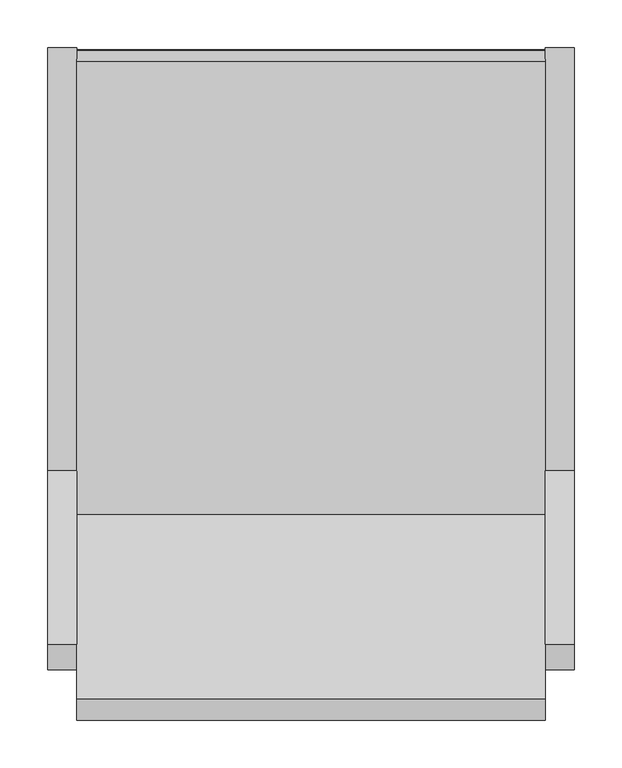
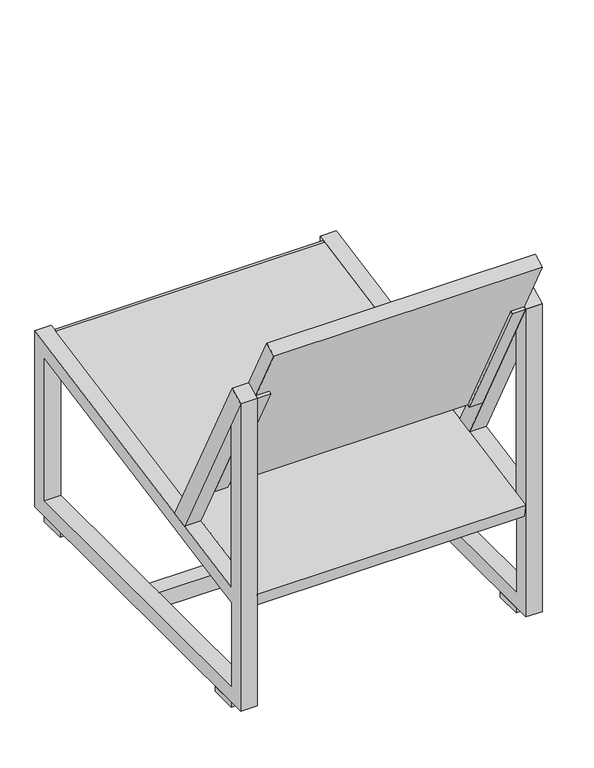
"""IFC4 building model written with IfcOpenShell, lengths in millimetres: furniture geometry, 1.4 Sillón : 1.4 Sillón."""

from ifc_helpers import new_model, si_unit, point, frame, frame_2d, origin, origin_with_axes, place, context, project, spatial, polyline, circle_curve, trimmed, segment, composite_curve, outline, extrude, source, transform, mapped, element, save


def furniture_649de98c(model_context):
    return source(origin(), model_context, "Body", "SweptSolid", [
        extrude(outline(polyline([(-147.6730251, 259.7099185), (-325.0, 603.6317602), (-298.335661, 617.3799611), (-116.9463627, 265.5793307), (-147.6730251, 259.7099185)])), frame((245.0, 0.0, 0.0), z_axis=(1.0, 0.0, 0.0), x_axis=(0.0, 1.0, 0.0)), (0.0, 0.0, 1.0), 30.0),
        extrude(outline(composite_curve([segment(trimmed(circle_curve(frame_2d((312.3631824, 337.405304)), 10.0), [point((310.4869055, 347.2277062))], [point((322.1855846, 339.281581))], False, "CARTESIAN"), True, "CONTINUOUS"), segment(polyline([(322.1855846, 339.281581), (323.1237231, 334.3703799)]), True, "CONTINUOUS"), segment(trimmed(circle_curve(frame_2d((313.3013209, 332.4941029)), 10.0), [point((323.1237231, 334.3703799))], [point((315.1775978, 322.6717007))], False, "CARTESIAN"), True, "CONTINUOUS"), segment(polyline([(315.1775978, 322.6717007), (-320.3093077, 201.2808841), (-325.0, 225.8368896), (310.4869055, 347.2277062)]), True, "CONTINUOUS")], self_intersect=False)), frame((-245.0, 0.0, 0.0), z_axis=(1.0, 0.0, 0.0), x_axis=(0.0, 1.0, 0.0)), (0.0, 0.0, 1.0), 490.0),
        extrude(outline(polyline([(-295.0, 545.4474075), (-295.0, 231.5674947), (325.0, 350.0), (325.0, 10.0), (-325.0, 10.0), (-325.0, 603.6317602), (-295.0, 545.4474075)]), holes=[polyline([(-295.0, 201.0250679), (-295.0, 40.0), (295.0, 40.0), (295.0, 313.7269681), (-295.0, 201.0250679)])]), frame((245.0, 0.0, 0.0), z_axis=(1.0, 0.0, 0.0), x_axis=(0.0, 1.0, 0.0)), (0.0, 0.0, 1.0), 30.0),
        extrude(outline(polyline([(-147.6730251, 259.7099185), (-325.0, 603.6317602), (-298.335661, 617.3799611), (-116.9463627, 265.5793307), (-147.6730251, 259.7099185)])), frame((-275.0, 0.0, 0.0), z_axis=(1.0, 0.0, 0.0), x_axis=(0.0, 1.0, 0.0)), (0.0, 0.0, 1.0), 30.0),
        extrude(outline(polyline([(-295.0, 545.4474075), (-295.0, 231.5674947), (325.0, 350.0), (325.0, 10.0), (-325.0, 10.0), (-325.0, 603.6317602), (-295.0, 545.4474075)]), holes=[polyline([(-295.0, 40.0), (295.0, 40.0), (295.0, 313.7269681), (-295.0, 201.0250679), (-295.0, 40.0)])]), frame((-275.0, 0.0, 0.0), z_axis=(1.0, 0.0, 0.0), x_axis=(0.0, 1.0, 0.0)), (0.0, 0.0, 1.0), 30.0),
        extrude(outline(polyline([(245.0, 15.0), (245.0, -15.0), (-245.0, -15.0), (-245.0, 15.0), (245.0, 15.0)])), frame((0.0, 0.0, 10.0), z_axis=(0.0, 0.0, 1.0), x_axis=(1.0, 0.0, 0.0)), (0.0, 0.0, 1.0), 30.0),
        extrude(outline(polyline([(-490.0, 0.0), (0.0, 0.0), (0.0, -25.0), (-490.0, -25.0), (-490.0, 0.0)])), frame((245.0, -162.8391573, 354.5874156), z_axis=(0.0, -0.45827336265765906, 0.8888112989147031), x_axis=(1.0, 0.0, 0.0)), (0.0, 0.0, 1.0), 419.8754168),
        extrude(outline(polyline([(-490.0, 0.0), (0.0, 0.0), (0.0, -25.0), (-490.0, -25.0), (-490.0, 0.0)])), frame((245.0, 205.3916669, 296.6099691), z_axis=(0.0, -0.18762769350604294, 0.9822402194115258), x_axis=(1.0, 0.0, 0.0)), (0.0, 0.0, 1.0), 5.0),
        extrude(outline(polyline([(-490.0, 0.0), (0.0, 0.0), (0.0, -25.0), (-490.0, -25.0), (-490.0, 0.0)])), frame((245.0, -190.6157153, 220.9645717), z_axis=(0.0, -0.18762769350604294, 0.9822402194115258), x_axis=(1.0, 0.0, 0.0)), (0.0, 0.0, 1.0), 5.0),
        extrude(outline(polyline([(-378.1675494, 0.0), (0.0, 0.0), (0.0, -25.0), (-378.1675494, -25.0), (-378.1675494, 0.0)])), frame((-220.0, -190.6157153, 220.9645717), z_axis=(0.0, -0.18762769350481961, 0.9822402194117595), x_axis=(0.0, -0.9822402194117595, -0.18762769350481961)), (0.0, 0.0, 1.0), 5.0),
        extrude(outline(polyline([(-378.1675494, 25.0), (0.0, 25.0), (0.0, 0.0), (-378.1675494, 0.0), (-378.1675494, 25.0)])), frame((220.0, -190.6157153, 220.9645717), z_axis=(0.0, -0.18762769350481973, 0.9822402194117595), x_axis=(0.0, -0.9822402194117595, -0.18762769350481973)), (0.0, 0.0, 1.0), 5.0),
        extrude(outline(polyline([(-11.8089335, 4.8009467), (12.747072, 0.1102543), (11.8089335, -4.8009468), (-12.747072, -0.1102544), (-11.8089335, 4.8009467)])), frame((-232.5, -187.281468, 341.9848981), z_axis=(0.0, -0.4582733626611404, 0.8888112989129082), x_axis=(-0.9822402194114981, -0.1667656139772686, -0.08598477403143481)), (0.0, 0.0, 1.0), 295.6674221),
        extrude(outline(polyline([(245.0, 245.0), (245.0, 295.0), (275.0, 295.0), (275.0, 245.0), (245.0, 245.0)])), origin_with_axes(), (0.0, 0.0, 1.0), 10.0),
        extrude(outline(polyline([(245.0, -295.0), (245.0, -245.0), (275.0, -245.0), (275.0, -295.0), (245.0, -295.0)])), origin_with_axes(), (0.0, 0.0, 1.0), 10.0),
        extrude(outline(polyline([(-275.0, 245.0), (-275.0, 295.0), (-245.0, 295.0), (-245.0, 245.0), (-275.0, 245.0)])), origin_with_axes(), (0.0, 0.0, 1.0), 10.0),
        extrude(outline(polyline([(-275.0, -295.0), (-275.0, -245.0), (-245.0, -245.0), (-245.0, -295.0), (-275.0, -295.0)])), origin_with_axes(), (0.0, 0.0, 1.0), 10.0),
        extrude(outline(polyline([(-12.747072, 0.1102544), (11.8089335, 4.8009468), (12.747072, -0.1102543), (-11.8089335, -4.8009467), (-12.747072, 0.1102544)])), frame((232.5, -187.281468, 341.9848981), z_axis=(0.0, -0.4582733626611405, 0.8888112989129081), x_axis=(0.9822402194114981, -0.16676561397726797, -0.08598477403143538)), (0.0, 0.0, 1.0), 295.6674221),
    ])


if __name__ == "__main__":
    model = new_model("IFC4")
    model_context = context("Model", 3, world=origin())
    ifc_project = project(units=[si_unit("LENGTHUNIT", "METRE", prefix="MILLI")], contexts=[model_context])
    site = spatial("IfcSite", under=ifc_project)
    building = spatial("IfcBuilding", under=site)
    placement = place(None, origin())
    furniture_shape = furniture_649de98c(model_context)
    element("IfcFurniture", 1, ObjectType="1.4 Sillón : 1.4 Sillón", at=placement, inside=building, context=model_context, shape_type="MappedRepresentation", body=[
        mapped(furniture_shape, transform((0.0, 0.0, 0.0), x_axis=(1.0, 0.0, 0.0), y_axis=(0.0, 1.0, 0.0), z_axis=(0.0, 0.0, 1.0))),
    ])
    save(model, "model.ifc")
